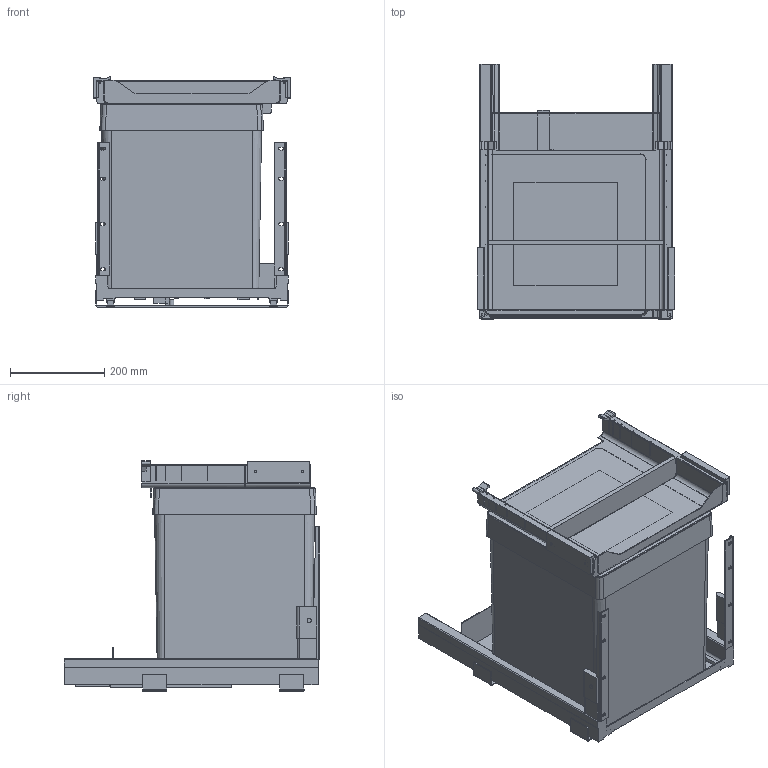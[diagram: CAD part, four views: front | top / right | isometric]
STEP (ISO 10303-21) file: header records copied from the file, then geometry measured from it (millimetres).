
FILE_DESCRIPTION(('STEP AP242'),'1');
FILE_NAME('OPO_53.433.05.stp','2025-11-08T20:30:02',(' '),(' '),'Spatial InterOp 3D',' ',' ');
FILE_SCHEMA(('AP242_MANAGED_MODEL_BASED_3D_ENGINEERING_MIM_LF {1 0 10303 442 1 1 4}'));
Length unit declared in the file: millimetre
Products named in the file (1): 1
Bounding box: 418 x 542 x 487.85 mm (x, y, z)
Volume: 48096151 mm3; surface area: 1594000 mm2
Topology: 1 solids, 1 shells, 733 faces, 2078 edges, 1348 vertices
Faces by surface type: plane 389, cylinder 284, sphere 20, cone 20, torus 16, bspline 4
Entity records: 30475 total; most frequent: CARTESIAN_POINT 4885, DIRECTION 4170, ORIENTED_EDGE 4156, EDGE_CURVE 2078, LINE 1434, VECTOR 1434, AXIS2_PLACEMENT_3D 1368, VERTEX_POINT 1348
